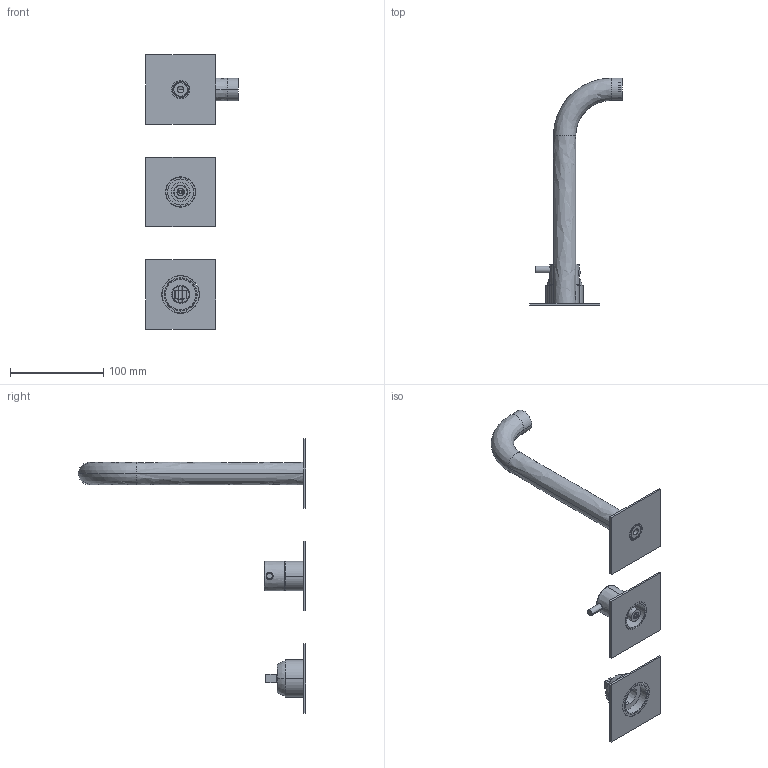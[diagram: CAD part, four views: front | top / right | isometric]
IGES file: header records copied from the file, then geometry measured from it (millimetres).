
Start section:  PTC IGES file: 12568ASV2.igs
Global section: file name: 12568ASV2.igs; native system: Creo Parametric by PTC Inc.; preprocessor: 2022014; author: carloff; organization: Unknown; date: 20241219.161632; units: millimetre
Bounding box: 99.5 x 244 x 295 mm (x, y, z)
Surface area: 115094.3 mm2 (no closed solid volume)
Topology: 0 solids, 0 shells, 1047 faces, 5788 edges, 5766 vertices
Faces by surface type: revolution 628, bspline 419
